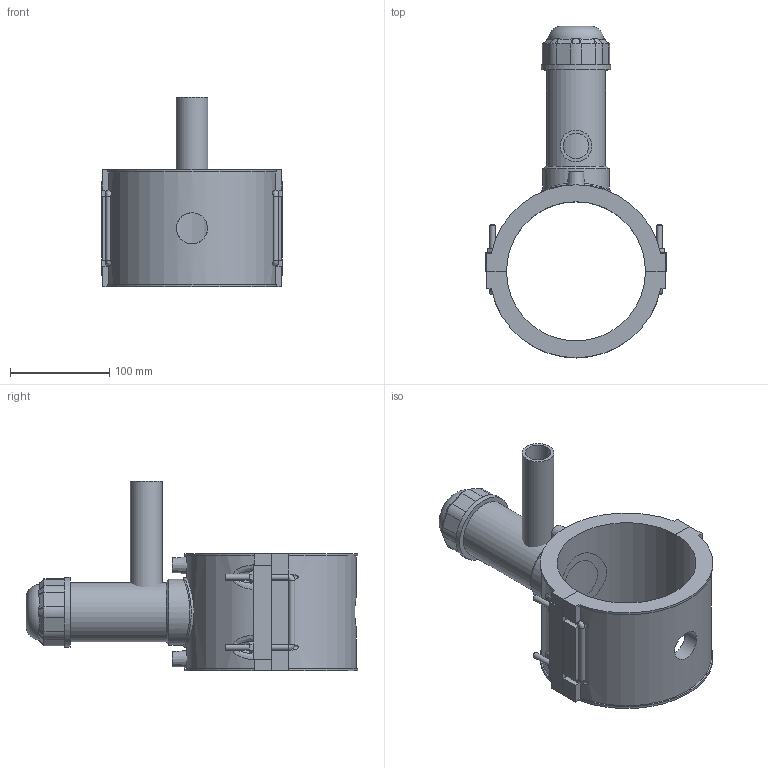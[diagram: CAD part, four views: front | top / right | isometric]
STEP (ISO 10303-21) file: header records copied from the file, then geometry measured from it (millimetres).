
FILE_DESCRIPTION(/* description */ (''),/* implementation_level */ '2;1');
FILE_NAME(/* name */ 'C:\Dropbox\KIMPROJECTS-Inventor 2019\99-16-3568-Processing\ElectroFusion Fittings\4963P4\stp\4963P4140032.stp',/* time_stamp */ '2022-03-17T11:29:13+02:00',/* author */ ('KIM'),/* organization */ (''),/* preprocessor_version */ 'ST-DEVELOPER v17.2',/* originating_system */ 'Autodesk Inventor 2019',/* authorisation */ '');
FILE_SCHEMA (('AUTOMOTIVE_DESIGN { 1 0 10303 214 3 1 1 }'));
Length unit declared in the file: millimetre
Products named in the file (1): 4963P4140032
Bounding box: 182 x 334.11 x 191 mm (x, y, z)
Volume: 1264828.8 mm3; surface area: 242396.8 mm2
Topology: 3 solids, 3 shells, 217 faces, 551 edges, 349 vertices
Faces by surface type: plane 119, cylinder 53, bspline 29, cone 15, torus 1
Full cylindrical faces by diameter (mm): 4 x2, 6 x8, 10 x2, 25.6 x1, 31.36 x1, 32 x1, 49 x1, 59.5 x1, 66.5 x1, 70 x2
Entity records: 8001 total; most frequent: CARTESIAN_POINT 2914, ORIENTED_EDGE 1086, DIRECTION 966, EDGE_CURVE 543, VERTEX_POINT 349, AXIS2_PLACEMENT_3D 331, LINE 304, VECTOR 304
